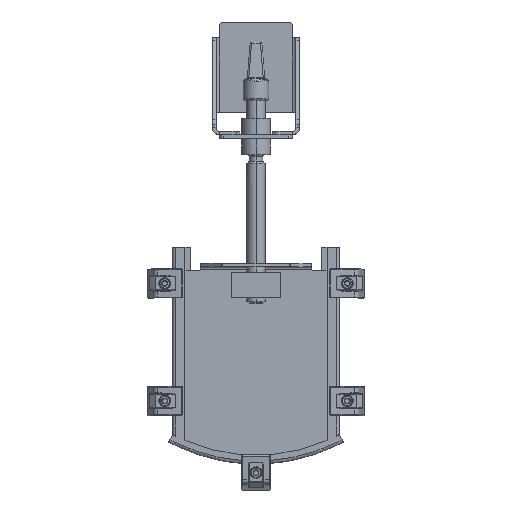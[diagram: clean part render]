
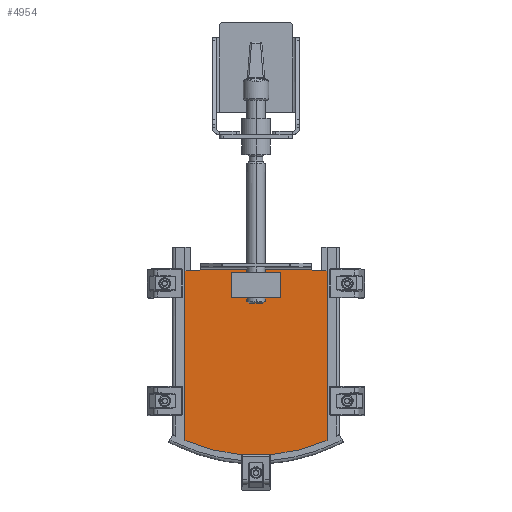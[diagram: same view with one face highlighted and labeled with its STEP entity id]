
A CAD part, top view. The second image highlights one B-rep face of the part: STEP entity #4954.
In plain terms, the highlighted planar face has unit normal (0, 0, 1).
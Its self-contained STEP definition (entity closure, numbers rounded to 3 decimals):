
#850 = AXIS2_PLACEMENT_3D ( 'NONE', #38093, #9661, #37479 ) ;
#1808 = CARTESIAN_POINT ( 'NONE',  ( 79., 255., 33. ) ) ;
#2187 = CARTESIAN_POINT ( 'NONE',  ( 98., 255., 33. ) ) ;
#2656 = LINE ( 'NONE', #33717, #3501 ) ;
#2861 = FACE_OUTER_BOUND ( 'NONE', #10112, .T. ) ;
#3226 = VERTEX_POINT ( 'NONE', #20972 ) ;
#3481 = ORIENTED_EDGE ( 'NONE', *, *, #17504, .T. ) ;
#3501 = VECTOR ( 'NONE', #8395, 1000. ) ;
#3974 = ORIENTED_EDGE ( 'NONE', *, *, #19862, .T. ) ;
#4679 = CARTESIAN_POINT ( 'NONE',  ( -34., 252.5, 33. ) ) ;
#4873 = CARTESIAN_POINT ( 'NONE',  ( 98., 20.454, 33. ) ) ;
#4951 = ORIENTED_EDGE ( 'NONE', *, *, #36867, .T. ) ;
#4954 = ADVANCED_FACE ( 'NONE', ( #2861, #18124 ), #27237, .T. ) ;
#5610 = CARTESIAN_POINT ( 'NONE',  ( 0., 245., 33. ) ) ;
#5700 = ORIENTED_EDGE ( 'NONE', *, *, #16341, .F. ) ;
#6230 = VECTOR ( 'NONE', #27968, 1000. ) ;
#7564 = ORIENTED_EDGE ( 'NONE', *, *, #40658, .T. ) ;
#8395 = DIRECTION ( 'NONE',  ( -1., 0., 0. ) ) ;
#8417 = EDGE_LOOP ( 'NONE', ( #29403, #17421, #5700, #23455 ) ) ;
#8779 = CARTESIAN_POINT ( 'NONE',  ( 98., -12.001, 33. ) ) ;
#8986 = CARTESIAN_POINT ( 'NONE',  ( -98., 255., 33. ) ) ;
#9389 = VECTOR ( 'NONE', #37989, 1000. ) ;
#9661 = DIRECTION ( 'NONE',  ( 0., 0., -1. ) ) ;
#10112 = EDGE_LOOP ( 'NONE', ( #37466, #3974, #40219, #13185, #4951, #3481, #32021, #7564 ) ) ;
#10178 = VERTEX_POINT ( 'NONE', #35751 ) ;
#11613 = CARTESIAN_POINT ( 'NONE',  ( -79., 257., 33. ) ) ;
#12222 = LINE ( 'NONE', #18421, #22624 ) ;
#12245 = CARTESIAN_POINT ( 'NONE',  ( -34., 252.5, 33. ) ) ;
#12458 = LINE ( 'NONE', #12245, #36475 ) ;
#13032 = EDGE_CURVE ( 'NONE', #39187, #21912, #18818, .T. ) ;
#13185 = ORIENTED_EDGE ( 'NONE', *, *, #15647, .T. ) ;
#13269 = VERTEX_POINT ( 'NONE', #8986 ) ;
#15321 = DIRECTION ( 'NONE',  ( 0., 0., 1. ) ) ;
#15647 = EDGE_CURVE ( 'NONE', #21912, #37441, #36805, .T. ) ;
#16341 = EDGE_CURVE ( 'NONE', #25156, #20271, #2656, .T. ) ;
#16386 = CARTESIAN_POINT ( 'NONE',  ( -34., 217.5, 33. ) ) ;
#17421 = ORIENTED_EDGE ( 'NONE', *, *, #28082, .F. ) ;
#17504 = EDGE_CURVE ( 'NONE', #36279, #31548, #25872, .T. ) ;
#18110 = CARTESIAN_POINT ( 'NONE',  ( 77., 257., 33. ) ) ;
#18124 = FACE_BOUND ( 'NONE', #8417, .T. ) ;
#18169 = DIRECTION ( 'NONE',  ( 1., 0., 0. ) ) ;
#18253 = CARTESIAN_POINT ( 'NONE',  ( 34., 252.5, 33. ) ) ;
#18341 = CARTESIAN_POINT ( 'NONE',  ( 98.172, 255., 33. ) ) ;
#18421 = CARTESIAN_POINT ( 'NONE',  ( -98.172, 255., 33. ) ) ;
#18594 = DIRECTION ( 'NONE',  ( 0., 0., -1. ) ) ;
#18818 = CIRCLE ( 'NONE', #28656, 245. ) ;
#19862 = EDGE_CURVE ( 'NONE', #13269, #39187, #29637, .T. ) ;
#19885 = DIRECTION ( 'NONE',  ( 1., 0., 0. ) ) ;
#20271 = VERTEX_POINT ( 'NONE', #4679 ) ;
#20972 = CARTESIAN_POINT ( 'NONE',  ( -34., 217.5, 33. ) ) ;
#21411 = EDGE_CURVE ( 'NONE', #22547, #25156, #33870, .T. ) ;
#21755 = DIRECTION ( 'NONE',  ( 0., -1., 0. ) ) ;
#21912 = VERTEX_POINT ( 'NONE', #4873 ) ;
#21952 = AXIS2_PLACEMENT_3D ( 'NONE', #11613, #18594, #30926 ) ;
#22547 = VERTEX_POINT ( 'NONE', #38730 ) ;
#22624 = VECTOR ( 'NONE', #30137, 1000. ) ;
#23455 = ORIENTED_EDGE ( 'NONE', *, *, #21411, .F. ) ;
#23568 = CARTESIAN_POINT ( 'NONE',  ( -98., -12.001, 33. ) ) ;
#23748 = DIRECTION ( 'NONE',  ( 0., 0., 1. ) ) ;
#24327 = LINE ( 'NONE', #18341, #39093 ) ;
#25156 = VERTEX_POINT ( 'NONE', #30268 ) ;
#25798 = VECTOR ( 'NONE', #37475, 1000. ) ;
#25872 = CIRCLE ( 'NONE', #850, 2. ) ;
#26822 = EDGE_CURVE ( 'NONE', #10178, #13269, #12222, .T. ) ;
#27237 = PLANE ( 'NONE',  #29251 ) ;
#27968 = DIRECTION ( 'NONE',  ( 0., 1., 0. ) ) ;
#28082 = EDGE_CURVE ( 'NONE', #20271, #3226, #12458, .T. ) ;
#28216 = EDGE_CURVE ( 'NONE', #3226, #22547, #32818, .T. ) ;
#28656 = AXIS2_PLACEMENT_3D ( 'NONE', #5610, #15321, #40401 ) ;
#29251 = AXIS2_PLACEMENT_3D ( 'NONE', #32985, #23748, #18169 ) ;
#29403 = ORIENTED_EDGE ( 'NONE', *, *, #28216, .F. ) ;
#29637 = LINE ( 'NONE', #23568, #30897 ) ;
#30137 = DIRECTION ( 'NONE',  ( -1., 0., 0. ) ) ;
#30268 = CARTESIAN_POINT ( 'NONE',  ( 34., 252.5, 33. ) ) ;
#30897 = VECTOR ( 'NONE', #33420, 1000. ) ;
#30926 = DIRECTION ( 'NONE',  ( 1., 0., 0. ) ) ;
#31291 = CARTESIAN_POINT ( 'NONE',  ( -105., 257., 33. ) ) ;
#31548 = VERTEX_POINT ( 'NONE', #18110 ) ;
#32021 = ORIENTED_EDGE ( 'NONE', *, *, #35329, .F. ) ;
#32818 = LINE ( 'NONE', #16386, #38498 ) ;
#32985 = CARTESIAN_POINT ( 'NONE',  ( -105., 25.856, 33. ) ) ;
#33420 = DIRECTION ( 'NONE',  ( 0., -1., 0. ) ) ;
#33717 = CARTESIAN_POINT ( 'NONE',  ( -34., 252.5, 33. ) ) ;
#33870 = LINE ( 'NONE', #18253, #9389 ) ;
#33957 = CARTESIAN_POINT ( 'NONE',  ( -77., 257., 33. ) ) ;
#34371 = LINE ( 'NONE', #31291, #25798 ) ;
#35329 = EDGE_CURVE ( 'NONE', #36746, #31548, #34371, .T. ) ;
#35751 = CARTESIAN_POINT ( 'NONE',  ( -79., 255., 33. ) ) ;
#36279 = VERTEX_POINT ( 'NONE', #1808 ) ;
#36475 = VECTOR ( 'NONE', #21755, 1000. ) ;
#36746 = VERTEX_POINT ( 'NONE', #33957 ) ;
#36805 = LINE ( 'NONE', #8779, #6230 ) ;
#36867 = EDGE_CURVE ( 'NONE', #37441, #36279, #24327, .T. ) ;
#37441 = VERTEX_POINT ( 'NONE', #2187 ) ;
#37466 = ORIENTED_EDGE ( 'NONE', *, *, #26822, .T. ) ;
#37475 = DIRECTION ( 'NONE',  ( 1., 0., 0. ) ) ;
#37479 = DIRECTION ( 'NONE',  ( 1., 0., 0. ) ) ;
#37989 = DIRECTION ( 'NONE',  ( 0., 1., 0. ) ) ;
#38093 = CARTESIAN_POINT ( 'NONE',  ( 79., 257., 33. ) ) ;
#38498 = VECTOR ( 'NONE', #19885, 1000. ) ;
#38730 = CARTESIAN_POINT ( 'NONE',  ( 34., 217.5, 33. ) ) ;
#39093 = VECTOR ( 'NONE', #40334, 1000. ) ;
#39187 = VERTEX_POINT ( 'NONE', #40179 ) ;
#39662 = CIRCLE ( 'NONE', #21952, 2. ) ;
#40179 = CARTESIAN_POINT ( 'NONE',  ( -98., 20.454, 33. ) ) ;
#40219 = ORIENTED_EDGE ( 'NONE', *, *, #13032, .T. ) ;
#40334 = DIRECTION ( 'NONE',  ( -1., 0., 0. ) ) ;
#40401 = DIRECTION ( 'NONE',  ( 1., 0., 0. ) ) ;
#40658 = EDGE_CURVE ( 'NONE', #36746, #10178, #39662, .T. ) ;
